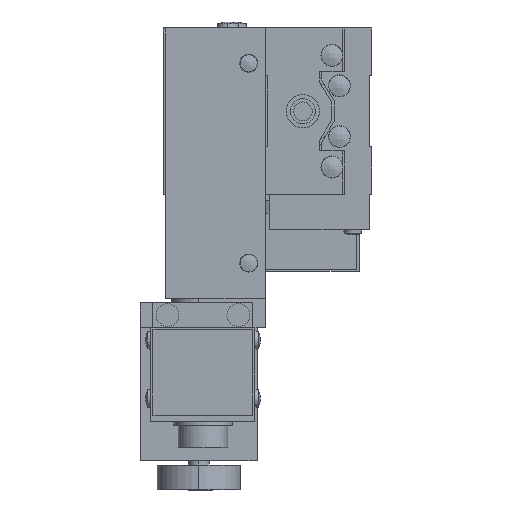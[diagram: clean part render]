
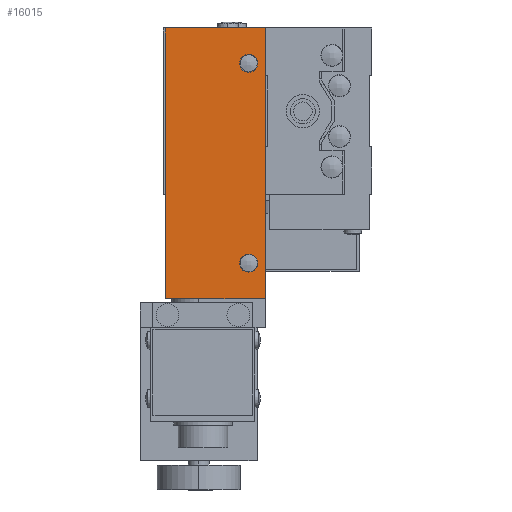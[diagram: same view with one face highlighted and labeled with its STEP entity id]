
A CAD part, left-side view. The second image highlights one B-rep face of the part: STEP entity #16015.
In plain terms, the highlighted planar face has unit normal (-1, 0, 0).
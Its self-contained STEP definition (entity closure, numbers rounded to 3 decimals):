
#4483 = DIRECTION ( 'NONE',  ( 0., 1., 0. ) ) ;
#4484 = VECTOR ( 'NONE', #4483, 1000. ) ;
#4485 = CARTESIAN_POINT ( 'NONE',  ( -28.5, 26., 0. ) ) ;
#4486 = LINE ( 'NONE', #4485, #4484 ) ;
#4488 = CARTESIAN_POINT ( 'NONE',  ( -28.5, 25.5, 0. ) ) ;
#6914 = CARTESIAN_POINT ( 'NONE',  ( -28.5, 25.5, -65. ) ) ;
#6979 = LINE ( 'NONE', #7141, #7140 ) ;
#7139 = DIRECTION ( 'NONE',  ( 0., 0., -1. ) ) ;
#7140 = VECTOR ( 'NONE', #7139, 1000. ) ;
#7141 = CARTESIAN_POINT ( 'NONE',  ( -28.5, 25.5, 0. ) ) ;
#7426 = CARTESIAN_POINT ( 'NONE',  ( -28.5, 26., 0. ) ) ;
#7428 = AXIS2_PLACEMENT_3D ( 'NONE', #7504, #7503, #7501 ) ;
#7430 = FACE_BOUND ( 'NONE', #16074, .T. ) ;
#7437 = FACE_BOUND ( 'NONE', #16024, .T. ) ;
#7460 = FACE_OUTER_BOUND ( 'NONE', #16088, .T. ) ;
#7501 = DIRECTION ( 'NONE',  ( 0., -1., 0. ) ) ;
#7503 = DIRECTION ( 'NONE',  ( -1., 0., 0. ) ) ;
#7504 = CARTESIAN_POINT ( 'NONE',  ( -28.5, 29.5, -8.5 ) ) ;
#7510 = CIRCLE ( 'NONE', #7428, 2.15 ) ;
#7527 = DIRECTION ( 'NONE',  ( 0., -1., 0. ) ) ;
#7529 = DIRECTION ( 'NONE',  ( -1., 0., 0. ) ) ;
#7530 = AXIS2_PLACEMENT_3D ( 'NONE', #7426, #7529, #7527 ) ;
#7536 = PLANE ( 'NONE',  #7530 ) ;
#7552 = CARTESIAN_POINT ( 'NONE',  ( -28.5, 49.5, -65. ) ) ;
#7779 = DIRECTION ( 'NONE',  ( 0., 1., 0. ) ) ;
#7781 = DIRECTION ( 'NONE',  ( -1., 0., 0. ) ) ;
#7783 = CARTESIAN_POINT ( 'NONE',  ( -28.5, 29.5, -56.5 ) ) ;
#7784 = AXIS2_PLACEMENT_3D ( 'NONE', #7783, #7781, #7779 ) ;
#7791 = CIRCLE ( 'NONE', #7784, 2.15 ) ;
#7795 = DIRECTION ( 'NONE',  ( 0., 1., 0. ) ) ;
#7796 = VECTOR ( 'NONE', #7795, 1000. ) ;
#7798 = CARTESIAN_POINT ( 'NONE',  ( -28.5, 26., -65. ) ) ;
#7800 = LINE ( 'NONE', #7798, #7796 ) ;
#7855 = LINE ( 'NONE', #7951, #7949 ) ;
#7948 = DIRECTION ( 'NONE',  ( 0., 0., -1. ) ) ;
#7949 = VECTOR ( 'NONE', #7948, 1000. ) ;
#7951 = CARTESIAN_POINT ( 'NONE',  ( -28.5, 49.5, 0. ) ) ;
#8692 = CARTESIAN_POINT ( 'NONE',  ( -28.5, 49.5, 0. ) ) ;
#13827 = VERTEX_POINT ( 'NONE', #18188 ) ;
#13828 = EDGE_CURVE ( 'NONE', #14150, #13827, #18183, .T. ) ;
#14097 = VERTEX_POINT ( 'NONE', #18787 ) ;
#14150 = VERTEX_POINT ( 'NONE', #18939 ) ;
#14153 = EDGE_CURVE ( 'NONE', #14097, #14156, #18940, .T. ) ;
#14156 = VERTEX_POINT ( 'NONE', #18963 ) ;
#15856 = VERTEX_POINT ( 'NONE', #6914 ) ;
#15914 = EDGE_CURVE ( 'NONE', #19867, #15856, #6979, .T. ) ;
#16015 = ADVANCED_FACE ( 'NONE', ( #7437, #7460, #7430 ), #7536, .T. ) ;
#16016 = ORIENTED_EDGE ( 'NONE', *, *, #16089, .T. ) ;
#16022 = VERTEX_POINT ( 'NONE', #7552 ) ;
#16024 = EDGE_LOOP ( 'NONE', ( #16092, #16070 ) ) ;
#16027 = EDGE_CURVE ( 'NONE', #13827, #14150, #7510, .T. ) ;
#16070 = ORIENTED_EDGE ( 'NONE', *, *, #13828, .F. ) ;
#16071 = EDGE_CURVE ( 'NONE', #15856, #16022, #7800, .T. ) ;
#16072 = ORIENTED_EDGE ( 'NONE', *, *, #16071, .F. ) ;
#16074 = EDGE_LOOP ( 'NONE', ( #16079, #16085 ) ) ;
#16076 = ORIENTED_EDGE ( 'NONE', *, *, #15914, .F. ) ;
#16077 = EDGE_CURVE ( 'NONE', #14156, #14097, #7791, .T. ) ;
#16079 = ORIENTED_EDGE ( 'NONE', *, *, #16077, .F. ) ;
#16085 = ORIENTED_EDGE ( 'NONE', *, *, #14153, .F. ) ;
#16088 = EDGE_LOOP ( 'NONE', ( #16072, #16076, #16091, #16016 ) ) ;
#16089 = EDGE_CURVE ( 'NONE', #16250, #16022, #7855, .T. ) ;
#16091 = ORIENTED_EDGE ( 'NONE', *, *, #19857, .T. ) ;
#16092 = ORIENTED_EDGE ( 'NONE', *, *, #16027, .F. ) ;
#16250 = VERTEX_POINT ( 'NONE', #8692 ) ;
#18176 = DIRECTION ( 'NONE',  ( 0., -1., 0. ) ) ;
#18177 = DIRECTION ( 'NONE',  ( -1., 0., 0. ) ) ;
#18178 = CARTESIAN_POINT ( 'NONE',  ( -28.5, 29.5, -8.5 ) ) ;
#18179 = AXIS2_PLACEMENT_3D ( 'NONE', #18178, #18177, #18176 ) ;
#18183 = CIRCLE ( 'NONE', #18179, 2.15 ) ;
#18188 = CARTESIAN_POINT ( 'NONE',  ( -28.5, 27.35, -8.5 ) ) ;
#18787 = CARTESIAN_POINT ( 'NONE',  ( -28.5, 27.35, -56.5 ) ) ;
#18931 = AXIS2_PLACEMENT_3D ( 'NONE', #18949, #18961, #18960 ) ;
#18939 = CARTESIAN_POINT ( 'NONE',  ( -28.5, 31.65, -8.5 ) ) ;
#18940 = CIRCLE ( 'NONE', #18931, 2.15 ) ;
#18949 = CARTESIAN_POINT ( 'NONE',  ( -28.5, 29.5, -56.5 ) ) ;
#18960 = DIRECTION ( 'NONE',  ( 0., 1., 0. ) ) ;
#18961 = DIRECTION ( 'NONE',  ( -1., 0., 0. ) ) ;
#18963 = CARTESIAN_POINT ( 'NONE',  ( -28.5, 31.65, -56.5 ) ) ;
#19857 = EDGE_CURVE ( 'NONE', #19867, #16250, #4486, .T. ) ;
#19867 = VERTEX_POINT ( 'NONE', #4488 ) ;
